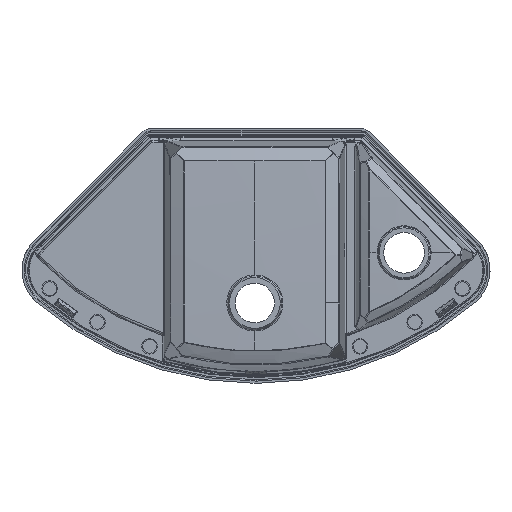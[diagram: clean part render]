
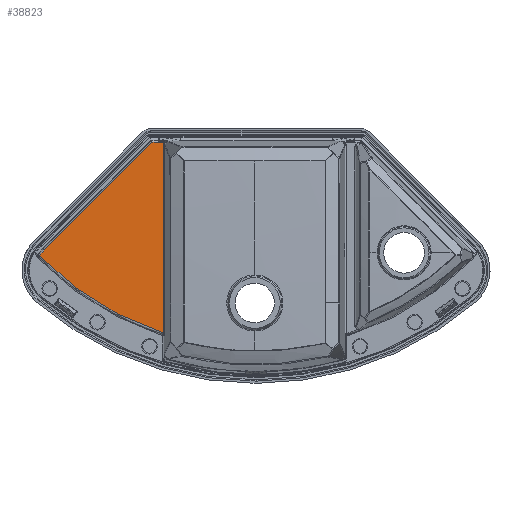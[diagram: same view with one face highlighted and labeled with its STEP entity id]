
A CAD part, front view. The second image highlights one B-rep face of the part: STEP entity #38823.
In plain terms, the highlighted planar face has unit normal (-0.011, -1, 0).
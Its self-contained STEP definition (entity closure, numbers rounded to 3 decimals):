
#348 = CARTESIAN_POINT ( 'NONE',  ( -209.394, -9.892, -173.685 ) ) ;
#948 = CARTESIAN_POINT ( 'NONE',  ( -209.243, -9.894, 251.758 ) ) ;
#1333 = CARTESIAN_POINT ( 'NONE',  ( -207.406, -9.913, 254.895 ) ) ;
#1596 = EDGE_CURVE ( 'NONE', #3182, #31915, #35893, .T. ) ;
#2441 = CARTESIAN_POINT ( 'NONE',  ( -488.541, -6.937, 0.207 ) ) ;
#3182 = VERTEX_POINT ( 'NONE', #28573 ) ;
#4425 = CARTESIAN_POINT ( 'NONE',  ( -209.394, -9.892, 250.786 ) ) ;
#4827 = CARTESIAN_POINT ( 'NONE',  ( -207.179, -9.916, 255.122 ) ) ;
#5192 = CARTESIAN_POINT ( 'NONE',  ( -488.541, -6.937, 0.207 ) ) ;
#5199 = CARTESIAN_POINT ( 'NONE',  ( -488.151, -6.941, 0.805 ) ) ;
#5237 = CARTESIAN_POINT ( 'NONE',  ( -487.76, -6.945, 1.402 ) ) ;
#5248 = CARTESIAN_POINT ( 'NONE',  ( -486.98, -6.954, 2.598 ) ) ;
#5327 = CARTESIAN_POINT ( 'NONE',  ( -486.592, -6.958, 3.198 ) ) ;
#5338 = CARTESIAN_POINT ( 'NONE',  ( -485.404, -6.97, 4.974 ) ) ;
#5381 = CARTESIAN_POINT ( 'NONE',  ( -484.578, -6.979, 6.125 ) ) ;
#5390 = CARTESIAN_POINT ( 'NONE',  ( -478.167, -7.047, 13.566 ) ) ;
#5437 = CARTESIAN_POINT ( 'NONE',  ( -480.143, -7.026, 11.581 ) ) ;
#5464 = CARTESIAN_POINT ( 'NONE',  ( -481.998, -7.006, 9.477 ) ) ;
#7639 = CARTESIAN_POINT ( 'NONE',  ( -207.634, -9.911, 254.668 ) ) ;
#8167 = CARTESIAN_POINT ( 'NONE',  ( -206.625, -9.921, 255.675 ) ) ;
#8319 = LINE ( 'NONE', #18056, #42660 ) ;
#8426 = ORIENTED_EDGE ( 'NONE', *, *, #38373, .T. ) ;
#8683 = DIRECTION ( 'NONE',  ( -1., 0.011, 0.001 ) ) ;
#9240 = CARTESIAN_POINT ( 'NONE',  ( -315.819, -8.766, -139.291 ) ) ;
#11091 = B_SPLINE_CURVE_WITH_KNOTS ( 'NONE', 3,
 ( #7639, #27658, #34298, #14351, #37625, #17718, #40963, #21071, #948, #24426, #4425, #27807 ),
 .UNSPECIFIED., .F., .F.,
 ( 4, 2, 2, 2, 2, 4 ),
 ( 0., 0.001, 0.002, 0.003, 0.004, 0.005 ),
 .UNSPECIFIED. ) ;
#11222 = PLANE ( 'NONE',  #18005 ) ;
#11386 = LINE ( 'NONE', #35172, #35888 ) ;
#11509 = CARTESIAN_POINT ( 'NONE',  ( -205.971, -9.928, 256.328 ) ) ;
#13319 =( BOUNDED_CURVE ( )  B_SPLINE_CURVE ( 3, ( #2441, #22536, #9240, #32551 ),
 .UNSPECIFIED., .F., .F. ) 
 B_SPLINE_CURVE_WITH_KNOTS ( ( 4, 4 ),
 ( 0.769, 1.258 ),
 .UNSPECIFIED. ) 
 CURVE ( )  GEOMETRIC_REPRESENTATION_ITEM ( )  RATIONAL_B_SPLINE_CURVE ( ( 1., 0.98, 0.98, 1. ) ) 
 REPRESENTATION_ITEM ( '' )  );
#13466 = CARTESIAN_POINT ( 'NONE',  ( -209.394, -9.892, 250.387 ) ) ;
#14246 = VERTEX_POINT ( 'NONE', #13466 ) ;
#14351 = CARTESIAN_POINT ( 'NONE',  ( -208.606, -9.9, 253.416 ) ) ;
#16205 = EDGE_CURVE ( 'NONE', #42902, #14246, #11091, .T. ) ;
#16767 = CARTESIAN_POINT ( 'NONE',  ( -209.394, -9.892, 252.137 ) ) ;
#17220 = ORIENTED_EDGE ( 'NONE', *, *, #16205, .F. ) ;
#17718 = CARTESIAN_POINT ( 'NONE',  ( -209.015, -9.896, 252.519 ) ) ;
#18005 = AXIS2_PLACEMENT_3D ( 'NONE', #34395, #41200, #21304 ) ;
#18056 = CARTESIAN_POINT ( 'NONE',  ( -245.667, -9.508, 245.823 ) ) ;
#18070 = VERTEX_POINT ( 'NONE', #20428 ) ;
#18548 = ORIENTED_EDGE ( 'NONE', *, *, #28791, .T. ) ;
#20094 = VERTEX_POINT ( 'NONE', #348 ) ;
#20395 = ORIENTED_EDGE ( 'NONE', *, *, #28032, .T. ) ;
#20428 = CARTESIAN_POINT ( 'NONE',  ( -235.129, -9.62, 256.35 ) ) ;
#20864 = CARTESIAN_POINT ( 'NONE',  ( -205.971, -9.928, 256.328 ) ) ;
#20970 = ORIENTED_EDGE ( 'NONE', *, *, #1596, .T. ) ;
#21071 = CARTESIAN_POINT ( 'NONE',  ( -209.196, -9.894, 251.95 ) ) ;
#21304 = DIRECTION ( 'NONE',  ( 1., -0.011, 0. ) ) ;
#22371 = CARTESIAN_POINT ( 'NONE',  ( -207.634, -9.911, 254.668 ) ) ;
#22536 = CARTESIAN_POINT ( 'NONE',  ( -410.751, -7.761, -80.154 ) ) ;
#24426 = CARTESIAN_POINT ( 'NONE',  ( -209.356, -9.893, 251.178 ) ) ;
#24536 = VECTOR ( 'NONE', #30195, 1000. ) ;
#24558 = EDGE_CURVE ( 'NONE', #31915, #20094, #13319, .T. ) ;
#24802 = CARTESIAN_POINT ( 'NONE',  ( -207.634, -9.911, 254.668 ) ) ;
#26151 = B_SPLINE_CURVE_WITH_KNOTS ( 'NONE', 3,
 ( #24802, #1333, #4827, #28181, #8167, #31504, #11509 ),
 .UNSPECIFIED., .F., .F.,
 ( 4, 3, 4 ),
 ( 0., 0.001, 0.002 ),
 .UNSPECIFIED. ) ;
#27658 = CARTESIAN_POINT ( 'NONE',  ( -207.916, -9.908, 254.386 ) ) ;
#27807 = CARTESIAN_POINT ( 'NONE',  ( -209.394, -9.892, 250.387 ) ) ;
#28032 = EDGE_CURVE ( 'NONE', #42902, #37042, #26151, .T. ) ;
#28181 = CARTESIAN_POINT ( 'NONE',  ( -206.952, -9.918, 255.349 ) ) ;
#28573 = CARTESIAN_POINT ( 'NONE',  ( -478.167, -7.047, 13.566 ) ) ;
#28791 = EDGE_CURVE ( 'NONE', #20094, #14246, #37510, .T. ) ;
#30195 = DIRECTION ( 'NONE',  ( 0., 0., 1. ) ) ;
#31504 = CARTESIAN_POINT ( 'NONE',  ( -206.298, -9.925, 256.002 ) ) ;
#31915 = VERTEX_POINT ( 'NONE', #35752 ) ;
#32551 = CARTESIAN_POINT ( 'NONE',  ( -209.394, -9.892, -173.685 ) ) ;
#33065 = ORIENTED_EDGE ( 'NONE', *, *, #24558, .T. ) ;
#34298 = CARTESIAN_POINT ( 'NONE',  ( -208.17, -9.905, 254.074 ) ) ;
#34395 = CARTESIAN_POINT ( 'NONE',  ( -0.128, -12.107, 0. ) ) ;
#35000 = EDGE_LOOP ( 'NONE', ( #8426, #35028, #20970, #33065, #18548, #17220, #20395 ) ) ;
#35028 = ORIENTED_EDGE ( 'NONE', *, *, #37471, .T. ) ;
#35172 = CARTESIAN_POINT ( 'NONE',  ( 0.061, -12.109, 256.176 ) ) ;
#35351 = FACE_OUTER_BOUND ( 'NONE', #35000, .T. ) ;
#35752 = CARTESIAN_POINT ( 'NONE',  ( -488.541, -6.937, 0.207 ) ) ;
#35888 = VECTOR ( 'NONE', #8683, 1000. ) ;
#35893 = B_SPLINE_CURVE_WITH_KNOTS ( 'NONE', 3,
 ( #5390, #5437, #5464, #5381, #5338, #5327, #5248, #5237, #5199, #5192 ),
 .UNSPECIFIED., .F., .F.,
 ( 4, 2, 2, 2, 4 ),
 ( 0.346, 0.355, 0.359, 0.361, 0.363 ),
 .UNSPECIFIED. ) ;
#37042 = VERTEX_POINT ( 'NONE', #20864 ) ;
#37471 = EDGE_CURVE ( 'NONE', #18070, #3182, #8319, .T. ) ;
#37510 = LINE ( 'NONE', #16767, #24536 ) ;
#37625 = CARTESIAN_POINT ( 'NONE',  ( -208.79, -9.899, 253.069 ) ) ;
#37962 = DIRECTION ( 'NONE',  ( -0.707, 0.007, -0.707 ) ) ;
#38373 = EDGE_CURVE ( 'NONE', #37042, #18070, #11386, .T. ) ;
#38823 = ADVANCED_FACE ( 'NONE', ( #35351 ), #11222, .T. ) ;
#40963 = CARTESIAN_POINT ( 'NONE',  ( -209.082, -9.895, 252.33 ) ) ;
#41200 = DIRECTION ( 'NONE',  ( -0.011, -1., 0. ) ) ;
#42660 = VECTOR ( 'NONE', #37962, 1000. ) ;
#42902 = VERTEX_POINT ( 'NONE', #22371 ) ;
